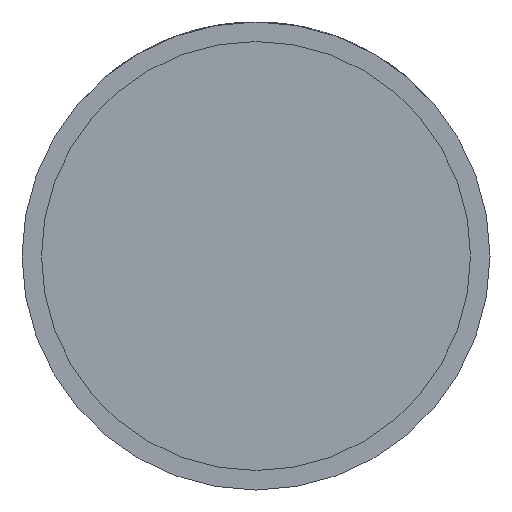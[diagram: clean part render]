
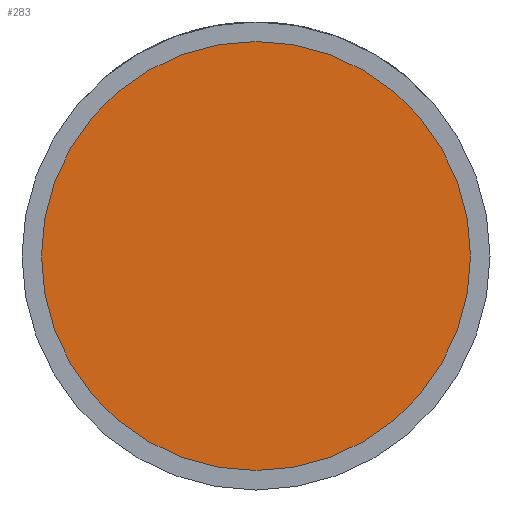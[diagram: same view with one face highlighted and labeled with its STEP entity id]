
A CAD part, front view. The second image highlights one B-rep face of the part: STEP entity #283.
In plain terms, the highlighted planar face has unit normal (0, -1, 0).
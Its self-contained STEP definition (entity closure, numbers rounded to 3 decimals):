
#117 = DIRECTION ( 'NONE',  ( 0., -1., 0. ) ) ;
#283 = ADVANCED_FACE ( 'NONE', ( #815 ), #1423, .T. ) ;
#323 = DIRECTION ( 'NONE',  ( 0., -1., 0. ) ) ;
#647 = EDGE_CURVE ( 'NONE', #2447, #3190, #3366, .T. ) ;
#815 = FACE_OUTER_BOUND ( 'NONE', #2173, .T. ) ;
#1098 = DIRECTION ( 'NONE',  ( 0., -1., 0. ) ) ;
#1132 = AXIS2_PLACEMENT_3D ( 'NONE', #4107, #1098, #1460 ) ;
#1249 = CARTESIAN_POINT ( 'NONE',  ( 22., -17.5, 0. ) ) ;
#1423 = PLANE ( 'NONE',  #1132 ) ;
#1460 = DIRECTION ( 'NONE',  ( 1., 0., 0. ) ) ;
#1720 = AXIS2_PLACEMENT_3D ( 'NONE', #3128, #117, #3441 ) ;
#1833 = AXIS2_PLACEMENT_3D ( 'NONE', #2995, #323, #2665 ) ;
#2173 = EDGE_LOOP ( 'NONE', ( #2744, #3212 ) ) ;
#2447 = VERTEX_POINT ( 'NONE', #1249 ) ;
#2665 = DIRECTION ( 'NONE',  ( 1., 0., 0. ) ) ;
#2744 = ORIENTED_EDGE ( 'NONE', *, *, #647, .T. ) ;
#2995 = CARTESIAN_POINT ( 'NONE',  ( 0., -17.5, 0. ) ) ;
#3128 = CARTESIAN_POINT ( 'NONE',  ( 0., -17.5, 0. ) ) ;
#3190 = VERTEX_POINT ( 'NONE', #3716 ) ;
#3212 = ORIENTED_EDGE ( 'NONE', *, *, #3768, .T. ) ;
#3366 = CIRCLE ( 'NONE', #1833, 22. ) ;
#3441 = DIRECTION ( 'NONE',  ( 1., 0., 0. ) ) ;
#3589 = CIRCLE ( 'NONE', #1720, 22. ) ;
#3716 = CARTESIAN_POINT ( 'NONE',  ( -22., -17.5, 0. ) ) ;
#3768 = EDGE_CURVE ( 'NONE', #3190, #2447, #3589, .T. ) ;
#4107 = CARTESIAN_POINT ( 'NONE',  ( 22., -17.5, 0. ) ) ;
